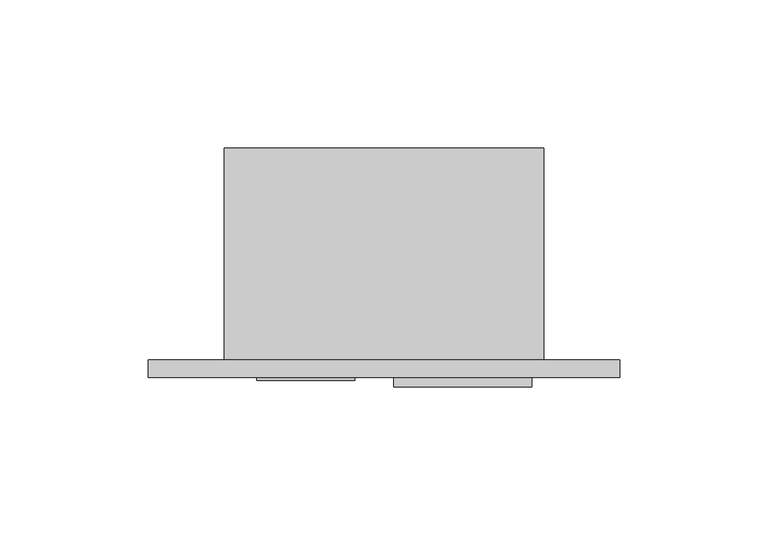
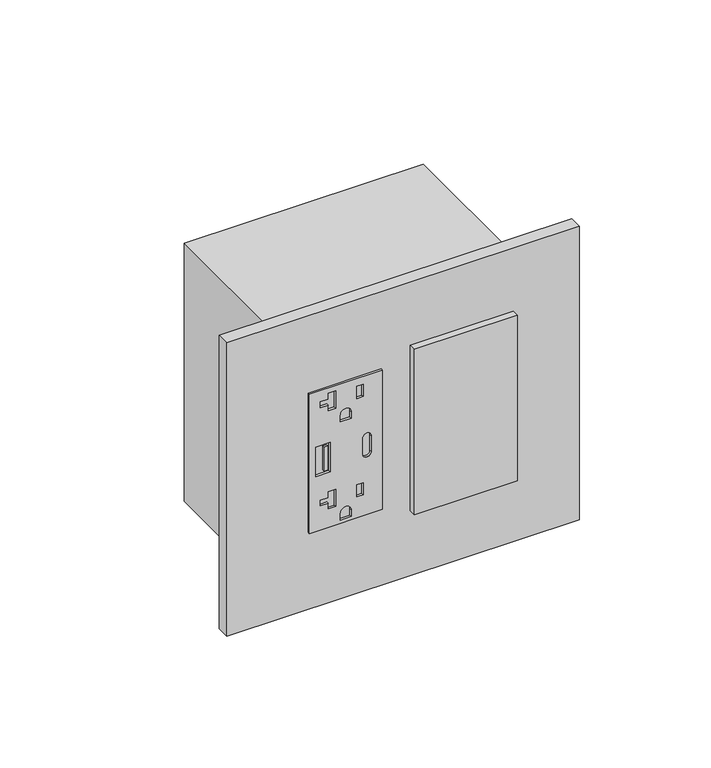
"""IFC4 building model written with IfcOpenShell, lengths in millimetres: proxy geometry, Electrical-Teknion-EPDMD_Vertical_Power_Data_Double-R2019 : PD Vertical Module - Double 20 Amp USB (A+C)."""

from ifc_helpers import new_model, si_unit, point, frame, frame_2d, origin, place, context, project, spatial, polyline, circle_curve, trimmed, segment, composite_curve, outline, extrude, source, transform, mapped, element, save


def electrical_fixtures_95b66924(model_context):
    return source(origin(), model_context, "Body", "SweptSolid", [
        extrude(outline(polyline([(414.1844229, 11.0998), (347.6364229, 11.0998), (347.6364229, 44.0944), (414.1844229, 44.0944), (414.1844229, 11.0998)]), holes=[polyline([(387.9589229, 14.0236066), (387.9589229, 20.5246617), (373.8619229, 20.5246617), (373.8619229, 14.0236066), (387.9589229, 14.0236066)]), composite_curve([segment(trimmed(circle_curve(frame_2d((384.6950229, 37.1348)), 1.905), [point((384.6950229, 35.2298))], [point((384.6950229, 39.0398))], True, "CARTESIAN"), True, "CONTINUOUS"), segment(polyline([(384.6950229, 39.0398), (377.1258229, 39.0398)]), True, "CONTINUOUS"), segment(trimmed(circle_curve(frame_2d((377.1258229, 37.1348)), 1.905), [point((377.1258229, 39.0398))], [point((377.1258229, 35.2298))], True, "CARTESIAN"), True, "CONTINUOUS"), segment(polyline([(377.1258229, 35.2298), (384.6950229, 35.2298)]), True, "CONTINUOUS")], self_intersect=False), composite_curve([segment(polyline([(349.1604229, 30.0609), (349.1604229, 25.1333), (352.2592229, 25.1333)]), True, "CONTINUOUS"), segment(trimmed(circle_curve(frame_2d((352.2592229, 27.5971)), 2.4638), [point((352.2592229, 25.1333))], [point((352.2592229, 30.0609))], True, "CARTESIAN"), True, "CONTINUOUS"), segment(polyline([(352.2592229, 30.0609), (349.1604229, 30.0609)]), True, "CONTINUOUS")], self_intersect=False), polyline([(364.7306229, 22.9616), (356.431589, 22.9616), (356.431589, 19.6342), (359.1147869, 19.6342), (359.1147869, 16.1036), (361.8524041, 16.1036), (361.8524041, 19.6342), (364.7306229, 19.6342), (364.7306229, 22.9616)]), composite_curve([segment(polyline([(396.1504229, 25.1333), (399.2492229, 25.1333)]), True, "CONTINUOUS"), segment(trimmed(circle_curve(frame_2d((399.2492229, 27.5971)), 2.4638), [point((399.2492229, 25.1333))], [point((399.2492229, 30.0609))], True, "CARTESIAN"), True, "CONTINUOUS"), segment(polyline([(399.2492229, 30.0609), (396.1504229, 30.0609), (396.1504229, 25.1333)]), True, "CONTINUOUS")], self_intersect=False), polyline([(404.6678878, 32.4358), (410.4910404, 32.4358), (410.4910404, 35.41014), (404.6678878, 35.41014), (404.6678878, 32.4358)]), polyline([(357.6778878, 32.4358), (363.5010404, 32.4358), (363.5010404, 35.41014), (357.6778878, 35.41014), (357.6778878, 32.4358)]), polyline([(411.7206229, 22.9616), (403.421589, 22.9616), (403.421589, 19.6342), (406.1047869, 19.6342), (406.1047869, 16.1036), (408.8424041, 16.1036), (408.8424041, 19.6342), (411.7206229, 19.6342), (411.7206229, 22.9616)])]), frame((0.0, -6.9294746, 0.0), z_axis=(0.0, 1.0, 0.0), x_axis=(0.0, 0.0, 1.0)), (0.0, 0.0, 1.0), 1.0366746),
        extrude(outline(polyline([(19.314835, -6.9294746), (17.7939058, -6.9294746), (17.7939058, -5.8928), (19.314835, -5.8928), (19.314835, -6.9294746)])), frame((0.0, 0.0, 375.1845775), z_axis=(0.0, 0.0, 1.0), x_axis=(1.0, 0.0, 0.0)), (0.0, 0.0, 1.0), 11.4436352),
        extrude(outline(polyline([(57.3278, -5.8928), (103.8606, -5.8928), (103.8606, -9.0678), (57.3278, -9.0678), (57.3278, -5.8928)])), frame((0.0, 0.0, 341.7026971), z_axis=(0.0, 0.0, 1.0), x_axis=(1.0, 0.0, 0.0)), (0.0, 0.0, 1.0), 79.0448),
        extrude(outline(polyline([(-25.6794, 0.0), (133.7056, 0.0), (133.7056, -5.8928), (-25.6794, -5.8928), (-25.6794, 0.0)])), frame((0.0, 0.0, 310.7302229), z_axis=(0.0, 0.0, 1.0), x_axis=(1.0, 0.0, 0.0)), (0.0, 0.0, 1.0), 140.3604),
        extrude(outline(polyline([(108.0262, 0.0), (0.0, 0.0), (0.0, 71.7296), (108.0262, 71.7296), (108.0262, 0.0)])), frame((0.0, 0.0, 319.1630229), z_axis=(0.0, 0.0, 1.0), x_axis=(1.0, 0.0, 0.0)), (0.0, 0.0, 1.0), 123.4948),
    ])


if __name__ == "__main__":
    model = new_model("IFC4")
    model_context = context("Model", 3, world=origin())
    ifc_project = project(units=[si_unit("LENGTHUNIT", "METRE", prefix="MILLI")], contexts=[model_context])
    site = spatial("IfcSite", under=ifc_project)
    building = spatial("IfcBuilding", under=site)
    placement = place(None, origin())
    electrical_fixtures_shape = electrical_fixtures_95b66924(model_context)
    element("IfcBuildingElementProxy", 1, Name="Electrical-Teknion-EPDMD_Vertical_Power_Data_Double-R2019 : PD Vertical Module - Double 20 Amp USB (A+C)", ObjectType="Electrical-Teknion-EPDMD_Vertical_Power_Data_Double-R2019 : PD Vertical Module - Double 20 Amp USB (A+C)", at=placement, inside=building, context=model_context, shape_type="MappedRepresentation", body=[
        mapped(electrical_fixtures_shape, transform((0.0, 0.0, 0.0), x_axis=(1.0, 0.0, 0.0), y_axis=(0.0, 1.0, 0.0), z_axis=(0.0, 0.0, 1.0))),
    ])
    save(model, "model.ifc")
